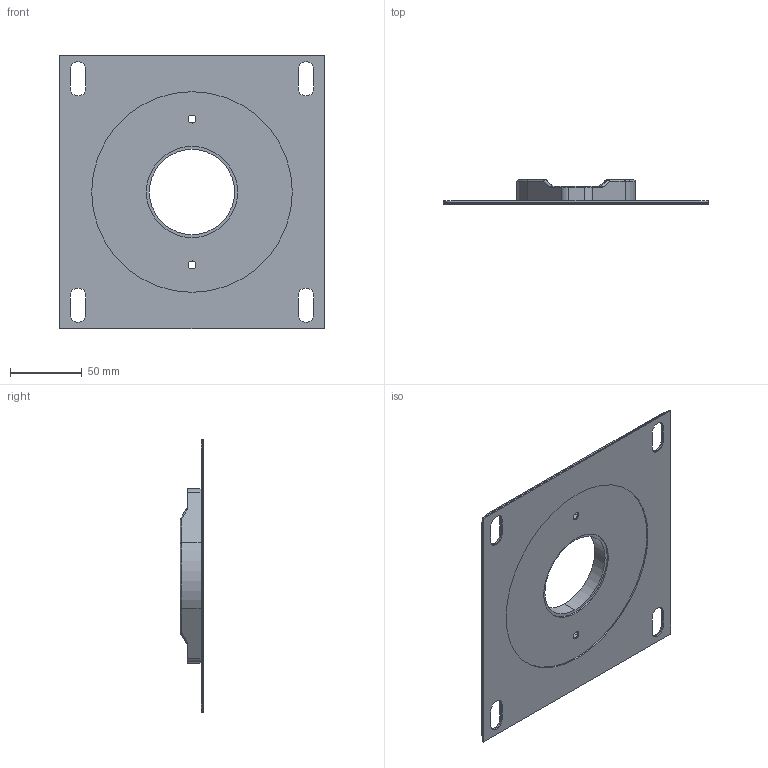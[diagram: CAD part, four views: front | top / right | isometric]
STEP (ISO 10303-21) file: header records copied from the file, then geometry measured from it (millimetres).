
FILE_DESCRIPTION (( 'STEP AP203' ), '1' );
FILE_NAME ('SLF-200P.STEP', '2015-01-21T14:44:10', ( '' ), ( '' ), 'SwSTEP 2.0', 'SolidWorks 2014', '' );
FILE_SCHEMA (( 'CONFIG_CONTROL_DESIGN' ));
Length unit declared in the file: inch
Products named in the file (1): SLF-200P
Bounding box: 184.15 x 16.64 x 190.5 mm (x, y, z)
Volume: 90683.5 mm3; surface area: 121549.8 mm2
Topology: 4 solids, 4 shells, 155 faces, 405 edges, 254 vertices
Faces by surface type: cylinder 80, plane 52, bspline 8, torus 7, cone 4, sphere 4
Entity records: 5093 total; most frequent: CARTESIAN_POINT 1131, DIRECTION 834, ORIENTED_EDGE 802, EDGE_CURVE 401, AXIS2_PLACEMENT_3D 309, VERTEX_POINT 254, LINE 216, VECTOR 216
